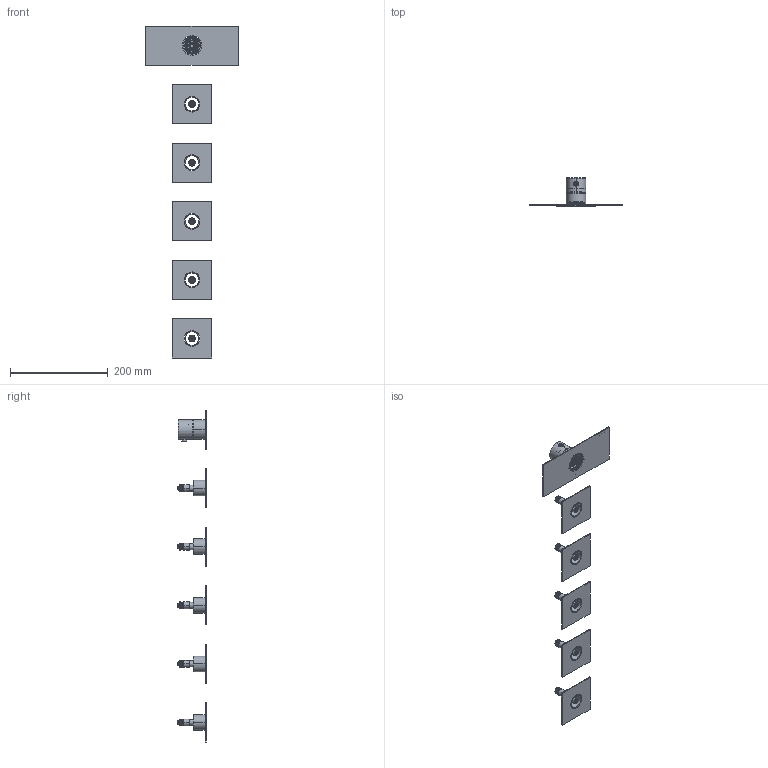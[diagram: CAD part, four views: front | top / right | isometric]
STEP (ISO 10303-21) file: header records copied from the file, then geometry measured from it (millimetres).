
FILE_DESCRIPTION((''),'2;1');
FILE_NAME('3D_SW0001','2026-05-18T11:07:54',('volponeff'),(''),'CREO PARAMETRIC BY PTC INC, 2025443','CREO PARAMETRIC BY PTC INC, 2025443','');
FILE_SCHEMA(('CONFIG_CONTROL_DESIGN'));
Products named in the file (1): 3D_SW0001
Bounding box: 190 x 58.1 x 680 mm (x, y, z)
Volume: 172576.9 mm3; surface area: 163301.4 mm2
Topology: 19 solids, 19 shells, 2046 faces, 5181 edges, 3292 vertices
Faces by surface type: plane 1185, cylinder 439, cone 247, torus 95, bspline 70, sphere 10
Entity records: 87155 total; most frequent: CARTESIAN_POINT 39092, ORIENTED_EDGE 10346, DIRECTION 9254, EDGE_CURVE 5173, VERTEX_POINT 3290, VECTOR 3262, LINE 3262, AXIS2_PLACEMENT_3D 2996
